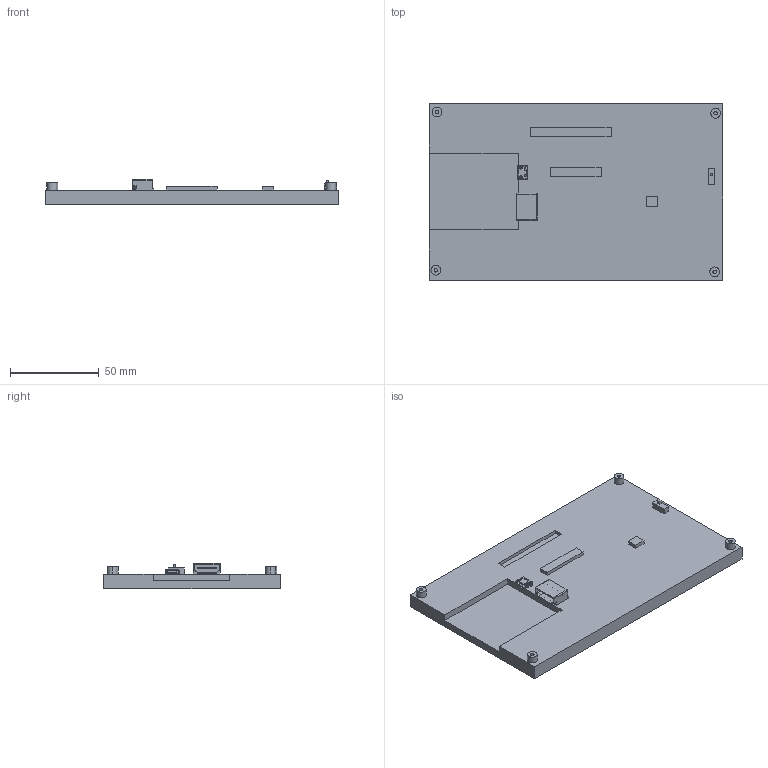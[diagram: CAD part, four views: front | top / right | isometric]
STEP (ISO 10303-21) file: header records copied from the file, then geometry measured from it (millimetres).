
FILE_DESCRIPTION((''),'2;1');
FILE_NAME('0820-2','2020-08-20T',('Administrator'),(''),'PRO/ENGINEER BY PARAMETRIC TECHNOLOGY CORPORATION, 2001280','PRO/ENGINEER BY PARAMETRIC TECHNOLOGY CORPORATION, 2001280','');
FILE_SCHEMA(('CONFIG_CONTROL_DESIGN'));
Length unit declared in the file: millimetre
Products named in the file (1): 0820-2
Bounding box: 164.8 x 99.2 x 14.2 mm (x, y, z)
Volume: 125505.3 mm3; surface area: 39178.8 mm2
Topology: 1 solids, 1 shells, 357 faces, 1008 edges, 660 vertices
Faces by surface type: plane 217, cylinder 140
Entity records: 11677 total; most frequent: CARTESIAN_POINT 2166, ORIENTED_EDGE 2016, DIRECTION 1962, EDGE_CURVE 1008, VECTOR 712, LINE 712, VERTEX_POINT 660, AXIS2_PLACEMENT_3D 625
